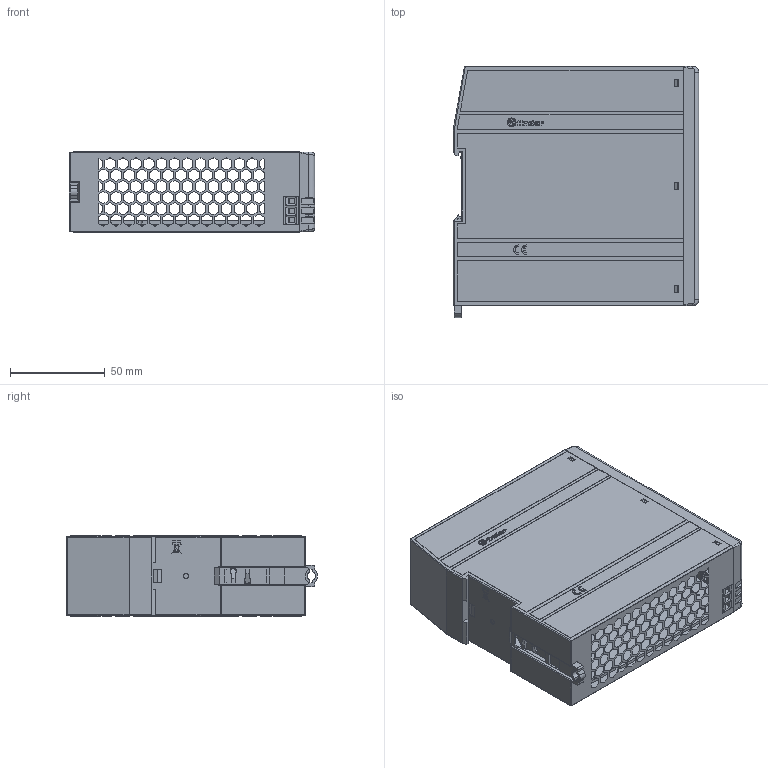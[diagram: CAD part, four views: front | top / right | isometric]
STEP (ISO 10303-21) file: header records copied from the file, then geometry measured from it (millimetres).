
FILE_DESCRIPTION(/* description */ ('Unknown'),/* implementation_level */ '2;1');
FILE_NAME(/* name */ '782A',/* time_stamp */ '2019-09-20T16:10:39+02:00',/* author */ ('Unknown'),/* organization */ ('Unknown'),/* preprocessor_version */ 'ST-DEVELOPER v16.7',/* originating_system */ 'DEX',/* authorisation */ $);
FILE_SCHEMA (('AUTOMOTIVE_DESIGN {1 0 10303 214 3 1 1}'));
Length unit declared in the file: millimetre
Products named in the file (1): Complessivo 782A - tutto PROVE
Bounding box: 129.3 x 132.35 x 42.5 mm (x, y, z)
Surface area: 69694.8 mm2 (no closed solid volume)
Topology: 0 solids, 43 shells, 866 faces, 4527 edges, 3713 vertices
Faces by surface type: plane 683, cylinder 118, bspline 54, torus 9, sphere 2
Full cylindrical faces by diameter (mm): 3 x2, 3.8 x14, 4.566 x2
Entity records: 47735 total; most frequent: CARTESIAN_POINT 11614, DIRECTION 7235, ORIENTED_EDGE 6432, EDGE_CURVE 4482, VERTEX_POINT 3694, LINE 3089, VECTOR 3089, AXIS2_PLACEMENT_3D 2073
